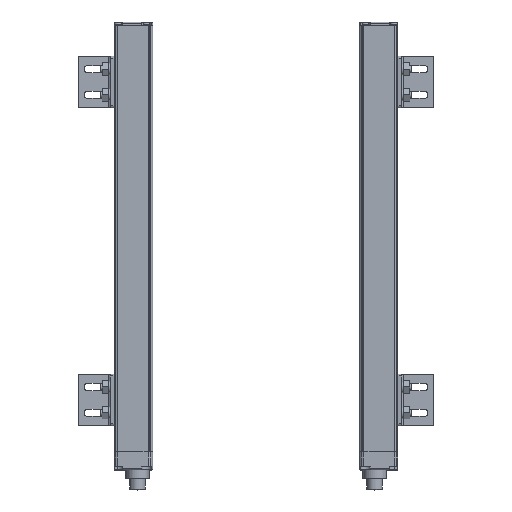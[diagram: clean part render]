
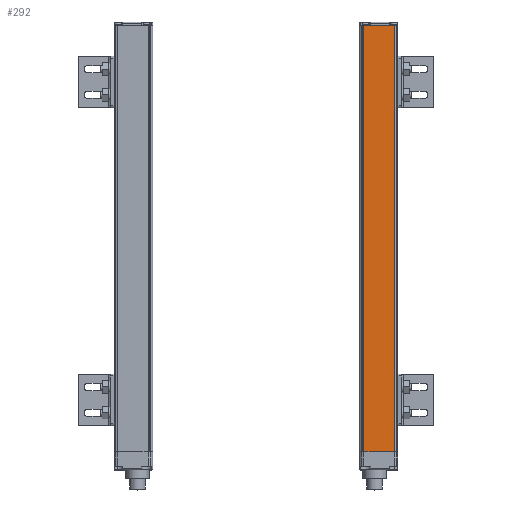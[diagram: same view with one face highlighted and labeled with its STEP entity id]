
A CAD part, top view. The second image highlights one B-rep face of the part: STEP entity #292.
In plain terms, the highlighted planar face has unit normal (0, 0, 1).
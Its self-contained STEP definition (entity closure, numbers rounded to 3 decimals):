
#292 = ADVANCED_FACE( '', ( #710 ), #711, .F. );
#710 = FACE_OUTER_BOUND( '', #1428, .T. );
#711 = PLANE( '', #1429 );
#1428 = EDGE_LOOP( '', ( #2730, #2731, #2732, #2733 ) );
#1429 = AXIS2_PLACEMENT_3D( '', #2734, #2735, #2736 );
#2730 = ORIENTED_EDGE( '', *, *, #4987, .T. );
#2731 = ORIENTED_EDGE( '', *, *, #4903, .T. );
#2732 = ORIENTED_EDGE( '', *, *, #4986, .F. );
#2733 = ORIENTED_EDGE( '', *, *, #4768, .F. );
#2734 = CARTESIAN_POINT( '', ( 3.66, 347.5, 14.01 ) );
#2735 = DIRECTION( '', ( 0., 0., -1. ) );
#2736 = DIRECTION( '', ( -1., 0., 0. ) );
#4768 = EDGE_CURVE( '', #5721, #5723, #5724, .T. );
#4903 = EDGE_CURVE( '', #5977, #5975, #5978, .T. );
#4986 = EDGE_CURVE( '', #5723, #5975, #6105, .T. );
#4987 = EDGE_CURVE( '', #5721, #5977, #6106, .T. );
#5721 = VERTEX_POINT( '', #7298 );
#5723 = VERTEX_POINT( '', #7300 );
#5724 = LINE( '', #7301, #7302 );
#5975 = VERTEX_POINT( '', #7626 );
#5977 = VERTEX_POINT( '', #7628 );
#5978 = LINE( '', #7629, #7630 );
#6105 = LINE( '', #7815, #7816 );
#6106 = LINE( '', #7817, #7818 );
#7298 = CARTESIAN_POINT( '', ( 3.66, 344.5, 14.01 ) );
#7300 = CARTESIAN_POINT( '', ( 27.672, 344.5, 14.01 ) );
#7301 = CARTESIAN_POINT( '', ( 3.66, 344.5, 14.01 ) );
#7302 = VECTOR( '', #9161, 1000. );
#7626 = CARTESIAN_POINT( '', ( 27.672, 14., 14.01 ) );
#7628 = CARTESIAN_POINT( '', ( 3.66, 14., 14.01 ) );
#7629 = CARTESIAN_POINT( '', ( 3.66, 14., 14.01 ) );
#7630 = VECTOR( '', #9418, 1000. );
#7815 = CARTESIAN_POINT( '', ( 27.672, 347.5, 14.01 ) );
#7816 = VECTOR( '', #9549, 1000. );
#7817 = CARTESIAN_POINT( '', ( 3.66, 347.5, 14.01 ) );
#7818 = VECTOR( '', #9550, 1000. );
#9161 = DIRECTION( '', ( 1., 0., 0. ) );
#9418 = DIRECTION( '', ( 1., 0., 0. ) );
#9549 = DIRECTION( '', ( 0., -1., 0. ) );
#9550 = DIRECTION( '', ( 0., -1., 0. ) );
